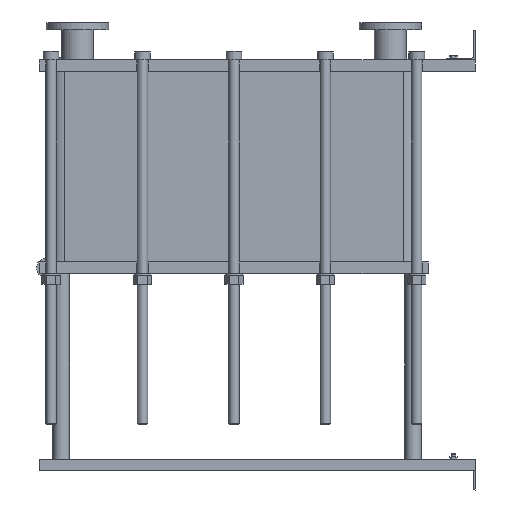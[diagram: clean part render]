
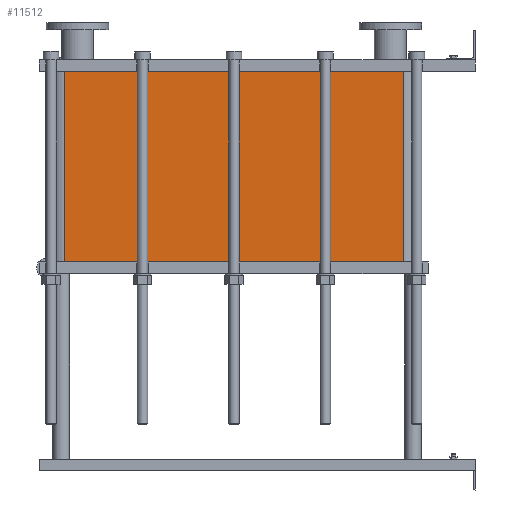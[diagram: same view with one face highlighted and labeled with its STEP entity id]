
A CAD part, left-side view. The second image highlights one B-rep face of the part: STEP entity #11512.
In plain terms, the highlighted planar face has unit normal (-1, 0, 0).
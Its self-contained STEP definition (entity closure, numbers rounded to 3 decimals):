
#1129=LINE('',#23232,#2102);
#1130=LINE('',#23236,#2103);
#1131=LINE('',#23238,#2104);
#1132=LINE('',#23239,#2105);
#2102=VECTOR('',#15887,10.);
#2103=VECTOR('',#15892,10.);
#2104=VECTOR('',#15893,10.);
#2105=VECTOR('',#15894,10.);
#3267=FACE_OUTER_BOUND('',#4093,.T.);
#4093=EDGE_LOOP('',(#10103,#10104,#10105,#10106));
#5642=VERTEX_POINT('',#23229);
#5643=VERTEX_POINT('',#23231);
#5644=VERTEX_POINT('',#23235);
#5645=VERTEX_POINT('',#23237);
#7159=EDGE_CURVE('',#5643,#5642,#1129,.T.);
#7161=EDGE_CURVE('',#5642,#5644,#1130,.T.);
#7162=EDGE_CURVE('',#5645,#5644,#1131,.T.);
#7163=EDGE_CURVE('',#5645,#5643,#1132,.T.);
#10103=ORIENTED_EDGE('',*,*,#7161,.T.);
#10104=ORIENTED_EDGE('',*,*,#7162,.F.);
#10105=ORIENTED_EDGE('',*,*,#7163,.T.);
#10106=ORIENTED_EDGE('',*,*,#7159,.T.);
#10857=PLANE('',#12751);
#11512=ADVANCED_FACE('',(#3267),#10857,.T.);
#12751=AXIS2_PLACEMENT_3D('',#23234,#15890,#15891);
#15887=DIRECTION('',(0.,0.,-1.));
#15890=DIRECTION('center_axis',(-1.,0.,0.));
#15891=DIRECTION('ref_axis',(0.,1.,0.));
#15892=DIRECTION('',(0.,-1.,0.));
#15893=DIRECTION('',(0.,0.,-1.));
#15894=DIRECTION('',(0.,1.,0.));
#23229=CARTESIAN_POINT('',(-200.,1414.,-655.5));
#23231=CARTESIAN_POINT('',(-200.,1414.,0.));
#23232=CARTESIAN_POINT('',(-200.,1414.,0.));
#23234=CARTESIAN_POINT('Origin',(-200.,248.,0.));
#23235=CARTESIAN_POINT('',(-200.,248.,-655.5));
#23236=CARTESIAN_POINT('',(-200.,539.5,-655.5));
#23237=CARTESIAN_POINT('',(-200.,248.,0.));
#23238=CARTESIAN_POINT('',(-200.,248.,0.));
#23239=CARTESIAN_POINT('',(-200.,248.,0.));
